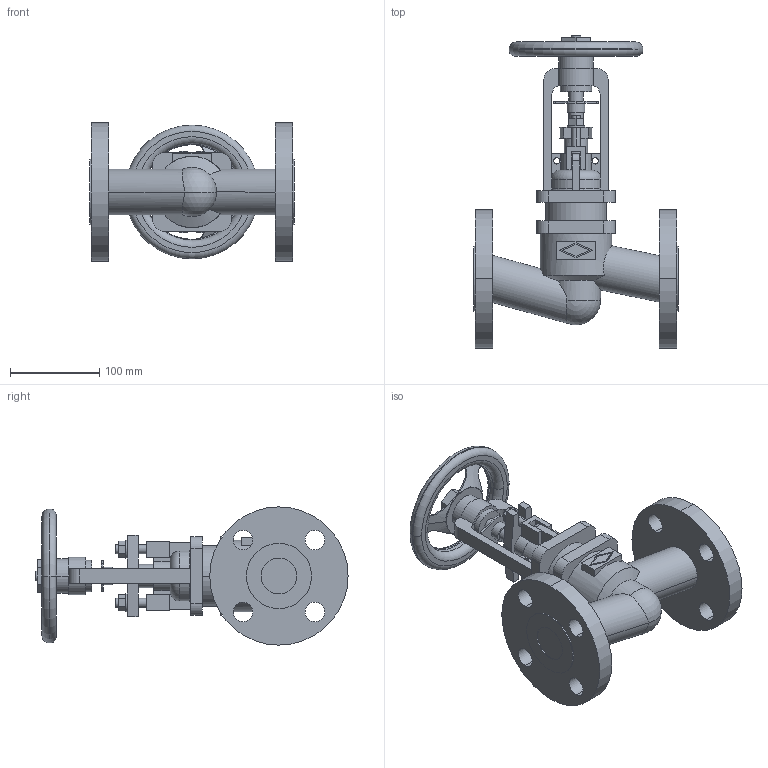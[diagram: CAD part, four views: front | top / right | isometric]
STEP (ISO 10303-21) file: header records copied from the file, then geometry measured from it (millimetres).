
FILE_DESCRIPTION(('OneSpaceDesigner STEP Export'),'2;1');
FILE_NAME('c000004196.stp','2010-04-30T 8:37:13',(''),(''),'OneSpace Designer STEP processor for AP214 (Solid Model)','OneSpace Modeling 15.50B 03-Nov-2007 (C) CoCreate Software GmbH','');
FILE_SCHEMA(('AUTOMOTIVE_DESIGN { 1 0 10303 214 1 1 1 1 }'));
Length unit declared in the file: millimetre
Products named in the file (1): 1
Bounding box: 229 x 349.9 x 155 mm (x, y, z)
Volume: 1984656.9 mm3; surface area: 255212.8 mm2
Topology: 1 solids, 1 shells, 285 faces, 766 edges, 505 vertices
Faces by surface type: plane 140, cylinder 117, torus 18, cone 8, sphere 2
Entity records: 11550 total; most frequent: CARTESIAN_POINT 2424, ORIENTED_EDGE 1520, DIRECTION 1277, EDGE_CURVE 760, VERTEX_POINT 501, AXIS2_PLACEMENT_3D 433, VECTOR 411, LINE 411
